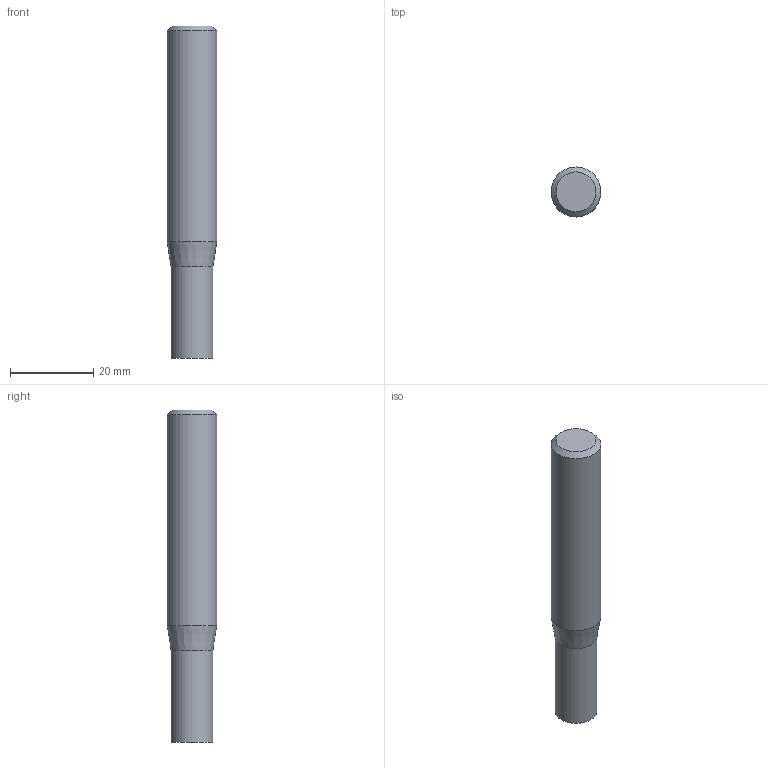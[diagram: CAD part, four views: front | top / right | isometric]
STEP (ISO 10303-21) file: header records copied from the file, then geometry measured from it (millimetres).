
FILE_DESCRIPTION((''),'2;1');
FILE_NAME('C:\Users\nsx150\AppData\Local\Temp\Mastercam 2021\98T1Q6BTT1\TEMP.step','2021-10-21T14:50:05',(''),(''),'STEP Write','Mastercam 2021 ... CNC Software, Inc.','');
FILE_SCHEMA(('AUTOMOTIVE_DESIGN'));
Length unit declared in the file: millimetre
Products named in the file (1): None
Bounding box: 12 x 12 x 80 mm (x, y, z)
Volume: 8195.2 mm3; surface area: 3194.4 mm2
Topology: 2 solids, 2 shells, 8 faces, 10 edges, 6 vertices
Faces by surface type: plane 4, cylinder 2, cone 2
Full cylindrical faces by diameter (mm): 10.1 x1, 12 x1
Entity records: 190 total; most frequent: DIRECTION 32, CARTESIAN_POINT 22, AXIS2_PLACEMENT_3D 16, ORIENTED_EDGE 12, EDGE_LOOP 12, STYLED_ITEM 11, ADVANCED_FACE 8, VERTEX_POINT 6
